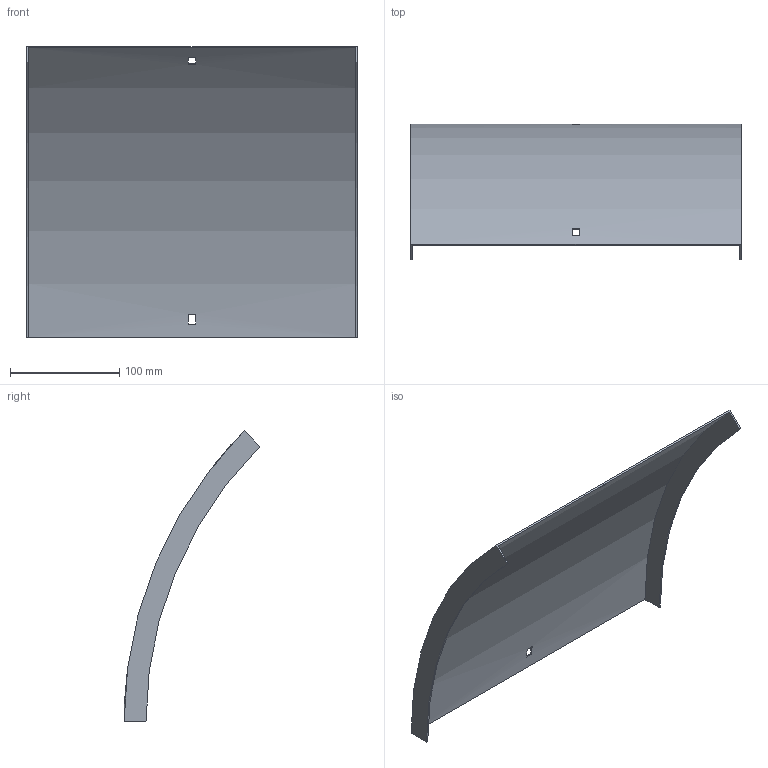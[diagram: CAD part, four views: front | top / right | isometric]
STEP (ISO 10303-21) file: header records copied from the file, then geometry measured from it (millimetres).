
FILE_DESCRIPTION (( 'STEP AP214' ), '1' );
FILE_NAME ('B2_34N3C300.step', '2025-02-21T10:35:54', ( '' ), ( '' ), 'SwSTEP 2.0', 'SolidWorks 2023', '' );
FILE_SCHEMA (( 'AUTOMOTIVE_DESIGN' ));
Length unit declared in the file: millimetre
Products named in the file (1): B2_34N3C300
Bounding box: 303 x 124.42 x 266.23 mm (x, y, z)
Volume: 149896.2 mm3; surface area: 201816.5 mm2
Topology: 1 solids, 1 shells, 18 faces, 48 edges, 32 vertices
Faces by surface type: plane 14, cylinder 4
Entity records: 599 total; most frequent: DIRECTION 102, CARTESIAN_POINT 99, ORIENTED_EDGE 96, EDGE_CURVE 48, AXIS2_PLACEMENT_3D 35, VECTOR 32, LINE 32, VERTEX_POINT 32
